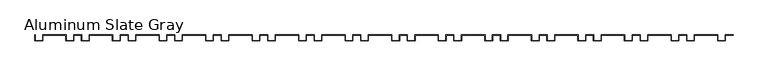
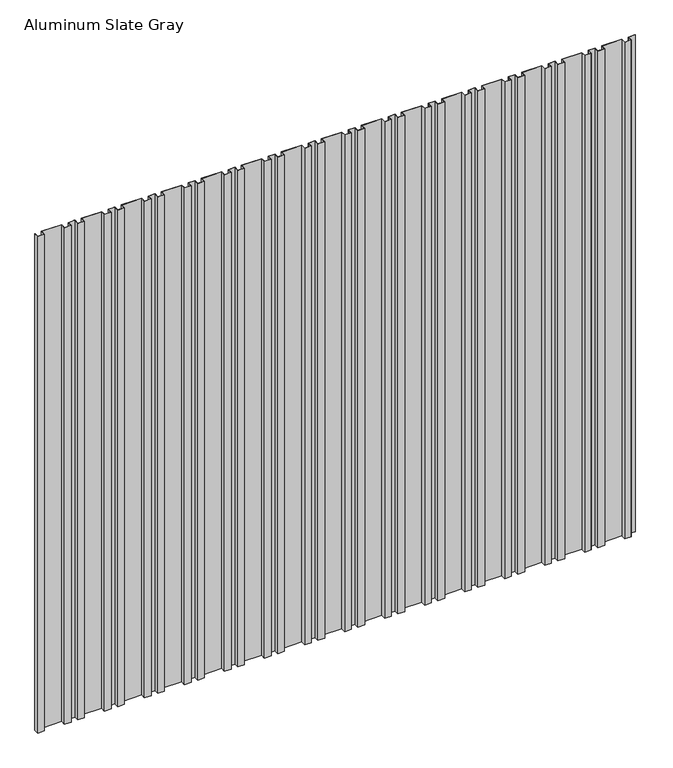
"""IFC4 building model written with IfcOpenShell, lengths in millimetres: proxy geometry, TitanTek LBR 2 VariPanel™ System : Aluminum Slate Gray."""

from ifc_helpers import new_model, si_unit, origin, origin_with_axes, place, context, project, spatial, polyline, outline, extrude, source, transform, mapped, element, save


def aluminum_slate_gray_e42b10ff(model_context):
    return source(origin(), model_context, "Body", "SweptSolid", [
        extrude(outline(polyline([(4521.2, -0.9921875), (4521.2, -38.1), (4470.4, -38.1), (4470.4, -0.9921875), (4318.0, -0.9921875), (4318.0, -38.1), (4267.2, -38.1), (4267.2, 0.0), (4268.1921875, 0.0), (4268.1921875, -37.1078125), (4317.0078125, -37.1078125), (4317.0078125, 0.0), (4471.3921875, 0.0), (4471.3921875, -37.1078125), (4520.2078125, -37.1078125), (4520.2078125, 0.0), (4572.0, 0.0), (4572.0, -0.9921875), (4521.2, -0.9921875)])), origin_with_axes(), (0.0, 0.0, 1.0), 4000.0),
        extrude(outline(polyline([(4216.4, -0.9921875), (4216.4, -38.1), (4165.6, -38.1), (4165.6, -0.9921875), (4013.2, -0.9921875), (4013.2, -38.1), (3962.4, -38.1), (3962.4, 0.0), (3963.3921875, 0.0), (3963.3921875, -37.1078125), (4012.2078125, -37.1078125), (4012.2078125, 0.0), (4166.5921875, 0.0), (4166.5921875, -37.1078125), (4215.4078125, -37.1078125), (4215.4078125, 0.0), (4267.2, 0.0), (4267.2, -0.9921875), (4216.4, -0.9921875)])), origin_with_axes(), (0.0, 0.0, 1.0), 4000.0),
        extrude(outline(polyline([(3911.6, -0.9921875), (3911.6, -38.1), (3860.8, -38.1), (3860.8, -0.9921875), (3708.4, -0.9921875), (3708.4, -38.1), (3657.6, -38.1), (3657.6, 0.0), (3658.5921875, 0.0), (3658.5921875, -37.1078125), (3707.4078125, -37.1078125), (3707.4078125, 0.0), (3861.7921875, 0.0), (3861.7921875, -37.1078125), (3910.6078125, -37.1078125), (3910.6078125, 0.0), (3962.4, 0.0), (3962.4, -0.9921875), (3911.6, -0.9921875)])), origin_with_axes(), (0.0, 0.0, 1.0), 4000.0),
        extrude(outline(polyline([(3606.8, -0.9921875), (3606.8, -38.1), (3556.0, -38.1), (3556.0, -0.9921875), (3403.6, -0.9921875), (3403.6, -38.1), (3352.8, -38.1), (3352.8, 0.0), (3353.7921875, 0.0), (3353.7921875, -37.1078125), (3402.6078125, -37.1078125), (3402.6078125, 0.0), (3556.9921875, 0.0), (3556.9921875, -37.1078125), (3605.8078125, -37.1078125), (3605.8078125, 0.0), (3657.6, 0.0), (3657.6, -0.9921875), (3606.8, -0.9921875)])), origin_with_axes(), (0.0, 0.0, 1.0), 4000.0),
        extrude(outline(polyline([(3302.0, -0.9921875), (3302.0, -38.1), (3251.2, -38.1), (3251.2, -0.9921875), (3098.8, -0.9921875), (3098.8, -38.1), (3048.0, -38.1), (3048.0, 0.0), (3048.9921875, 0.0), (3048.9921875, -37.1078125), (3097.8078125, -37.1078125), (3097.8078125, 0.0), (3252.1921875, 0.0), (3252.1921875, -37.1078125), (3301.0078125, -37.1078125), (3301.0078125, 0.0), (3352.8, 0.0), (3352.8, -0.9921875), (3302.0, -0.9921875)])), origin_with_axes(), (0.0, 0.0, 1.0), 4000.0),
        extrude(outline(polyline([(2997.2, -0.9921875), (2997.2, -38.1), (2946.4, -38.1), (2946.4, -0.9921875), (2794.0, -0.9921875), (2794.0, -38.1), (2743.2, -38.1), (2743.2, 0.0), (2744.1921875, 0.0), (2744.1921875, -37.1078125), (2793.0078125, -37.1078125), (2793.0078125, 0.0), (2947.3921875, 0.0), (2947.3921875, -37.1078125), (2996.2078125, -37.1078125), (2996.2078125, 0.0), (3048.0, 0.0), (3048.0, -0.9921875), (2997.2, -0.9921875)])), origin_with_axes(), (0.0, 0.0, 1.0), 4000.0),
        extrude(outline(polyline([(2692.4, -0.9921875), (2692.4, -38.1), (2641.6, -38.1), (2641.6, -0.9921875), (2489.2, -0.9921875), (2489.2, -38.1), (2438.4, -38.1), (2438.4, 0.0), (2439.3921875, 0.0), (2439.3921875, -37.1078125), (2488.2078125, -37.1078125), (2488.2078125, 0.0), (2642.5921875, 0.0), (2642.5921875, -37.1078125), (2691.4078125, -37.1078125), (2691.4078125, 0.0), (2743.2, 0.0), (2743.2, -0.9921875), (2692.4, -0.9921875)])), origin_with_axes(), (0.0, 0.0, 1.0), 4000.0),
        extrude(outline(polyline([(2387.6, -0.9921875), (2387.6, -38.1), (2336.8, -38.1), (2336.8, -0.9921875), (2184.4, -0.9921875), (2184.4, -38.1), (2133.6, -38.1), (2133.6, 0.0), (2134.5921875, 0.0), (2134.5921875, -37.1078125), (2183.4078125, -37.1078125), (2183.4078125, 0.0), (2337.7921875, 0.0), (2337.7921875, -37.1078125), (2386.6078125, -37.1078125), (2386.6078125, 0.0), (2438.4, 0.0), (2438.4, -0.9921875), (2387.6, -0.9921875)])), origin_with_axes(), (0.0, 0.0, 1.0), 4000.0),
        extrude(outline(polyline([(2082.8, -0.9921875), (2082.8, -38.1), (2032.0, -38.1), (2032.0, -0.9921875), (1879.6, -0.9921875), (1879.6, -38.1), (1828.8, -38.1), (1828.8, 0.0), (1829.7921875, 0.0), (1829.7921875, -37.1078125), (1878.6078125, -37.1078125), (1878.6078125, 0.0), (2032.9921875, 0.0), (2032.9921875, -37.1078125), (2081.8078125, -37.1078125), (2081.8078125, 0.0), (2133.6, 0.0), (2133.6, -0.9921875), (2082.8, -0.9921875)])), origin_with_axes(), (0.0, 0.0, 1.0), 4000.0),
        extrude(outline(polyline([(1778.0, -0.9921875), (1778.0, -38.1), (1727.2, -38.1), (1727.2, -0.9921875), (1574.8, -0.9921875), (1574.8, -38.1), (1524.0, -38.1), (1524.0, 0.0), (1524.9921875, 0.0), (1524.9921875, -37.1078125), (1573.8078125, -37.1078125), (1573.8078125, 0.0), (1728.1921875, 0.0), (1728.1921875, -37.1078125), (1777.0078125, -37.1078125), (1777.0078125, 0.0), (1828.8, 0.0), (1828.8, -0.9921875), (1778.0, -0.9921875)])), origin_with_axes(), (0.0, 0.0, 1.0), 4000.0),
        extrude(outline(polyline([(1473.2, -0.9921875), (1473.2, -38.1), (1422.4, -38.1), (1422.4, -0.9921875), (1270.0, -0.9921875), (1270.0, -38.1), (1219.2, -38.1), (1219.2, 0.0), (1220.1921875, 0.0), (1220.1921875, -37.1078125), (1269.0078125, -37.1078125), (1269.0078125, 0.0), (1423.3921875, 0.0), (1423.3921875, -37.1078125), (1472.2078125, -37.1078125), (1472.2078125, 0.0), (1524.0, 0.0), (1524.0, -0.9921875), (1473.2, -0.9921875)])), origin_with_axes(), (0.0, 0.0, 1.0), 4000.0),
        extrude(outline(polyline([(1168.4, -0.9921875), (1168.4, -38.1), (1117.6, -38.1), (1117.6, -0.9921875), (965.2, -0.9921875), (965.2, -38.1), (914.4, -38.1), (914.4, 0.0), (915.3921875, 0.0), (915.3921875, -37.1078125), (964.2078125, -37.1078125), (964.2078125, 0.0), (1118.5921875, 0.0), (1118.5921875, -37.1078125), (1167.4078125, -37.1078125), (1167.4078125, 0.0), (1219.2, 0.0), (1219.2, -0.9921875), (1168.4, -0.9921875)])), origin_with_axes(), (0.0, 0.0, 1.0), 4000.0),
        extrude(outline(polyline([(863.6, -0.9921875), (863.6, -38.1), (812.8, -38.1), (812.8, -0.9921875), (660.4, -0.9921875), (660.4, -38.1), (609.6, -38.1), (609.6, 0.0), (610.5921875, 0.0), (610.5921875, -37.1078125), (659.4078125, -37.1078125), (659.4078125, 0.0), (813.7921875, 0.0), (813.7921875, -37.1078125), (862.6078125, -37.1078125), (862.6078125, 0.0), (914.4, 0.0), (914.4, -0.9921875), (863.6, -0.9921875)])), origin_with_axes(), (0.0, 0.0, 1.0), 4000.0),
        extrude(outline(polyline([(558.8, -0.9921875), (558.8, -38.1), (508.0, -38.1), (508.0, -0.9921875), (355.6, -0.9921875), (355.6, -38.1), (304.8, -38.1), (304.8, 0.0), (305.7921875, 0.0), (305.7921875, -37.1078125), (354.6078125, -37.1078125), (354.6078125, 0.0), (508.9921875, 0.0), (508.9921875, -37.1078125), (557.8078125, -37.1078125), (557.8078125, 0.0), (609.6, 0.0), (609.6, -0.9921875), (558.8, -0.9921875)])), origin_with_axes(), (0.0, 0.0, 1.0), 4000.0),
        extrude(outline(polyline([(254.0, -0.9921875), (254.0, -38.1), (203.2, -38.1), (203.2, -0.9921875), (50.8, -0.9921875), (50.8, -38.1), (0.0, -38.1), (0.0, 0.0), (0.9921875, 0.0), (0.9921875, -37.1078125), (49.8078125, -37.1078125), (49.8078125, 0.0), (204.1921875, 0.0), (204.1921875, -37.1078125), (253.0078125, -37.1078125), (253.0078125, 0.0), (304.8, 0.0), (304.8, -0.9921875), (254.0, -0.9921875)])), origin_with_axes(), (0.0, 0.0, 1.0), 4000.0),
    ])


if __name__ == "__main__":
    model = new_model("IFC4")
    model_context = context("Model", 3, world=origin())
    ifc_project = project(units=[si_unit("LENGTHUNIT", "METRE", prefix="MILLI")], contexts=[model_context])
    site = spatial("IfcSite", under=ifc_project)
    building = spatial("IfcBuilding", under=site)
    placement = place(None, origin())
    aluminum_slate_gray_shape = aluminum_slate_gray_e42b10ff(model_context)
    element("IfcBuildingElementProxy", 1, Name="TitanTek LBR 2 VariPanel™ System : Aluminum Slate Gray", ObjectType="TitanTek LBR 2 VariPanel™ System : Aluminum Slate Gray", at=placement, inside=building, context=model_context, shape_type="MappedRepresentation", body=[
        mapped(aluminum_slate_gray_shape, transform((0.0, 0.0, 0.0), x_axis=(1.0, 0.0, 0.0), y_axis=(0.0, 1.0, 0.0), z_axis=(0.0, 0.0, 1.0))),
    ])
    save(model, "model.ifc")
